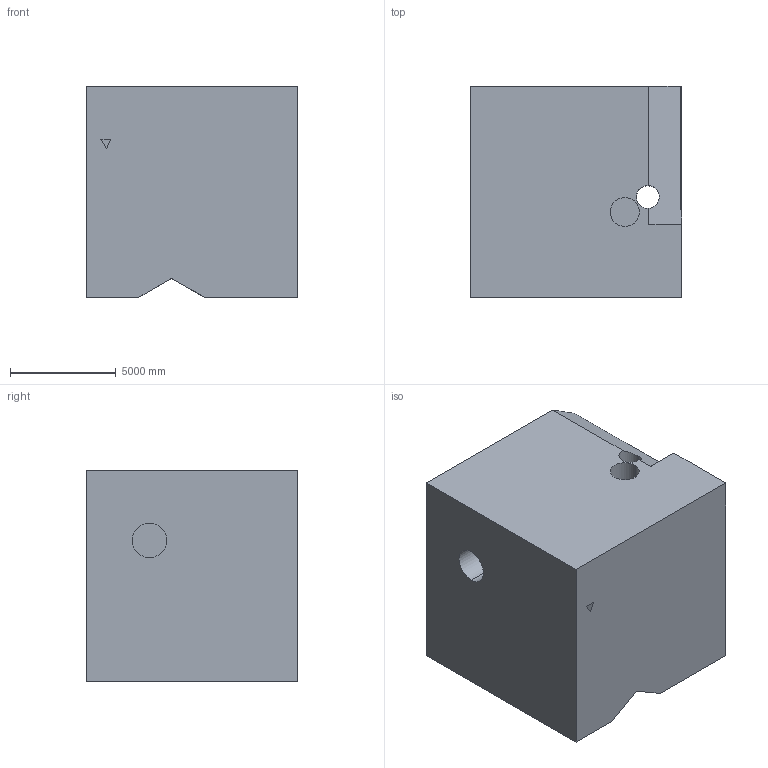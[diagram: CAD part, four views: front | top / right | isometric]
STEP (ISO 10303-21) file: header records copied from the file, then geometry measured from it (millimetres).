
FILE_DESCRIPTION (( 'STEP AP203' ), '1' );
FILE_NAME ('76.STEP', '2022-09-01T11:58:33', ( 'user' ), ( '' ), 'SwSTEP 2.0', 'SolidWorks 2021', '' );
FILE_SCHEMA (( 'CONFIG_CONTROL_DESIGN' ));
Length unit declared in the file: centimetre
Products named in the file (1): 76
Bounding box: 10000 x 10000 x 10000 mm (x, y, z)
Volume: 948043059141.4 mm3; surface area: 693497089.3 mm2
Topology: 1 solids, 1 shells, 32 faces, 81 edges, 54 vertices
Faces by surface type: plane 22, cylinder 10
Entity records: 1042 total; most frequent: CARTESIAN_POINT 198, ORIENTED_EDGE 162, DIRECTION 153, EDGE_CURVE 81, LINE 55, VECTOR 55, VERTEX_POINT 54, AXIS2_PLACEMENT_3D 49
